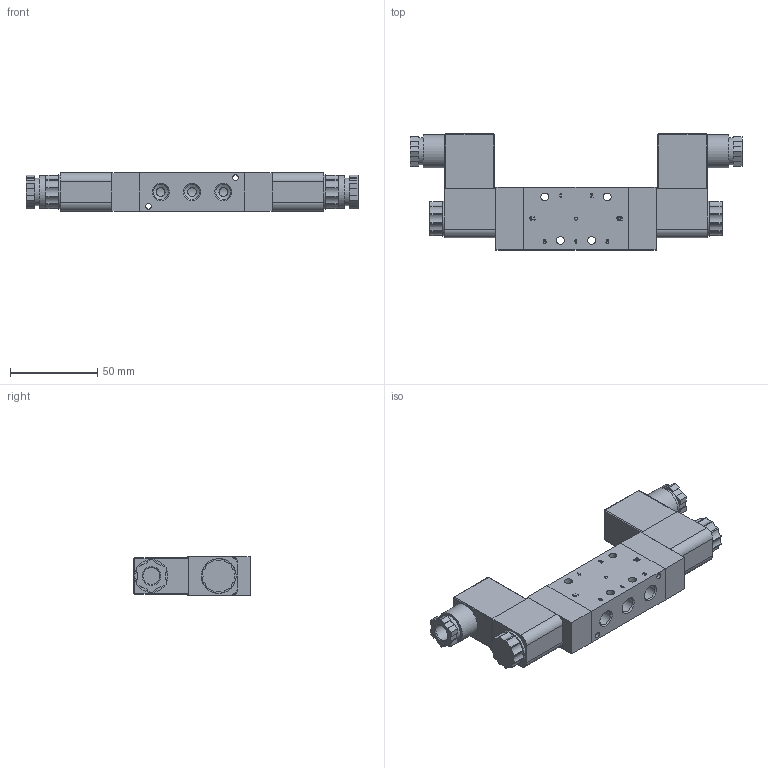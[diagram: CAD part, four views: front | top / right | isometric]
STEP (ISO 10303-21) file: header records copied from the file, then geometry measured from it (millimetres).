
FILE_DESCRIPTION( ( 'Unknown' ), '1' );
FILE_NAME( 'Q:/Solid Edge ST4/STEP/MH 531 501 G + MA 22 + ST 22 M.stp', 'Unknown', ( 'Unknown' ), ( 'Unknown' ), 'PSStep 17.0.49', 'Unknown', ' ' );
FILE_SCHEMA( ( 'AUTOMOTIVE_DESIGN { 1 0 10303 214 1 1 1 1 }' ) );
Length unit declared in the file: millimetre
Products named in the file (10): Assem1; -oa0
Assembly tree (9 placements, depth 2):
  Assem1
    -oa0
    -oa0
    -oa0
    -oa0
    -oa0
    -oa0
    -oa0
    -oa0
    -oa0
Bounding box: 190.8 x 66.7 x 22 mm (x, y, z)
Volume: 146156.1 mm3; surface area: 48584.2 mm2
Topology: 9 solids, 9 shells, 834 faces, 2142 edges, 1411 vertices
Faces by surface type: plane 550, cylinder 161, extrusion 79, cone 32, sphere 10, torus 2
Full cylindrical faces by diameter (mm): 1.5 x6, 1.6 x2, 1.85 x2, 2.459 x20, 2.5 x2, 3.236 x2, 3.3 x2, 4.5 x4, 5 x5, 5.6 x8, 6 x2, 6.1 x2, 7.3 x2, 8 x2, 8.15 x2, 8.5 x2, 8.566 x10, 9 x2, 9.15 x2, 9.75 x2, 11 x2, 11.6 x2, 12 x1, 15.6 x2, 16 x2, 19 x2, 20 x2
Entity records: 33138 total; most frequent: CARTESIAN_POINT 6593, ORIENTED_EDGE 3844, DIRECTION 3704, EDGE_CURVE 1922, VECTOR 1462, STYLED_ITEM 1409, PRESENTATION_STYLE_ASSIGNMENT 1409, CURVE_STYLE 1409
